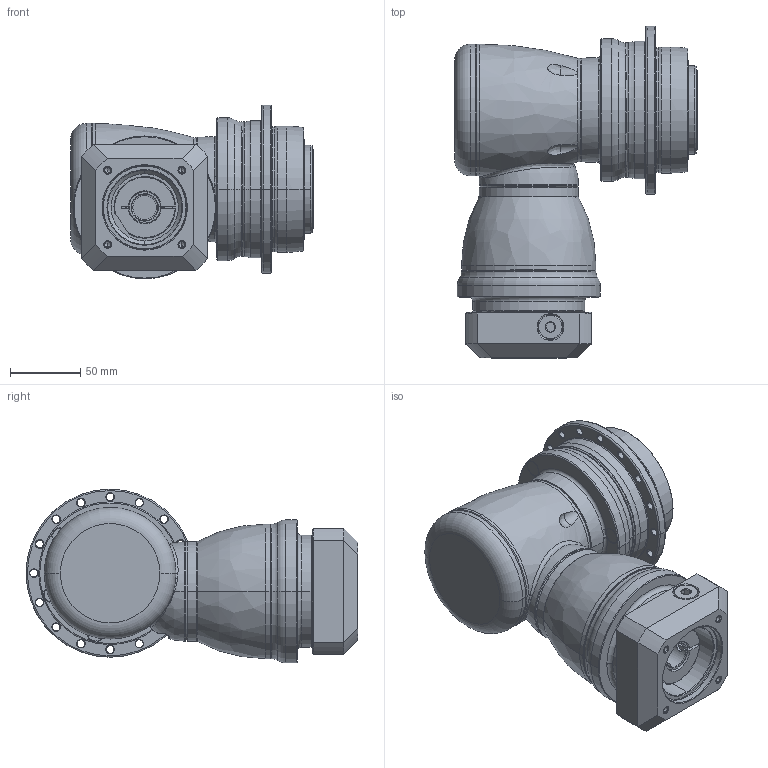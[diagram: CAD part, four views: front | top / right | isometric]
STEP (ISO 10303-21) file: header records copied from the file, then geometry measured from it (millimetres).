
FILE_DESCRIPTION((''),'2;1');
FILE_NAME('APK090_2ST_19-P0409400201_ASM','2018-11-01T',('D00126'),(''),'PRO/ENGINEER BY PARAMETRIC TECHNOLOGY CORPORATION, 2015240','PRO/ENGINEER BY PARAMETRIC TECHNOLOGY CORPORATION, 2015240','');
FILE_SCHEMA(('CONFIG_CONTROL_DESIGN'));
Length unit declared in the file: millimetre
Products named in the file (13): P1008300002; P1802310011; P0278301003; P0359301103; P1211300001; P1315300001; P1007301001; P1318310201; P0503400006; P0129302001; P0409400201; 21711412017; APK090_2ST_19-P0409400201_ASM
Assembly tree (12 placements, depth 2):
  APK090_2ST_19-P0409400201_ASM
    P1008300002
    P1802310011
    P0278301003
    P0359301103
    P1211300001
    P1315300001
    P1007301001
    P1318310201
    P0503400006
    P0129302001
    P0409400201
    21711412017
Bounding box: 173.5 x 237 x 124 mm (x, y, z)
Volume: 1948146.3 mm3; surface area: 271829.9 mm2
Topology: 13 solids, 34 shells, 763 faces, 1741 edges, 1051 vertices
Faces by surface type: cylinder 307, cone 187, plane 143, torus 85, bspline 39, sphere 2
Entity records: 26182 total; most frequent: CARTESIAN_POINT 8505, DIRECTION 4052, ORIENTED_EDGE 3300, AXIS2_PLACEMENT_3D 1747, EDGE_CURVE 1693, VERTEX_POINT 1045, CIRCLE 988, EDGE_LOOP 898
